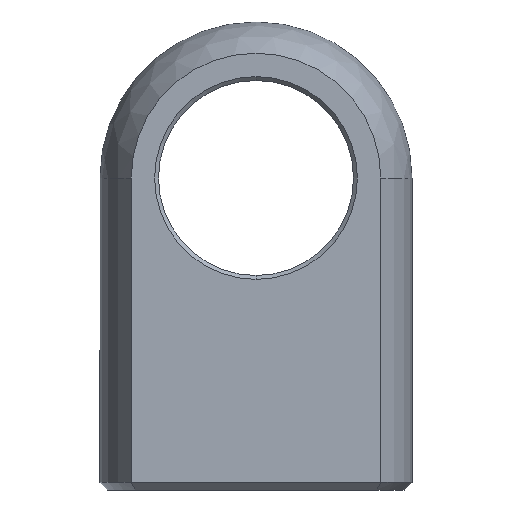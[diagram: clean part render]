
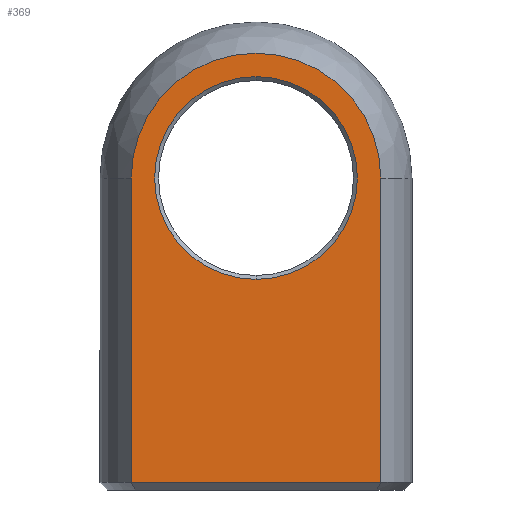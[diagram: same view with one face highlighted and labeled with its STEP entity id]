
A CAD part, front view. The second image highlights one B-rep face of the part: STEP entity #369.
In plain terms, the highlighted planar face has unit normal (0, -1, 0).
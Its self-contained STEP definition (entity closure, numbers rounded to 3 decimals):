
#2 = EDGE_CURVE ( 'NONE', #23, #131, #315, .T. ) ;
#8 = DIRECTION ( 'NONE',  ( 1., 0., 0. ) ) ;
#15 = VECTOR ( 'NONE', #211, 1000. ) ;
#23 = VERTEX_POINT ( 'NONE', #353 ) ;
#27 = EDGE_CURVE ( 'NONE', #259, #359, #427, .T. ) ;
#41 = EDGE_CURVE ( 'NONE', #584, #396, #489, .T. ) ;
#63 = DIRECTION ( 'NONE',  ( 0., -1., 0. ) ) ;
#102 = DIRECTION ( 'NONE',  ( 1., 0., 0. ) ) ;
#108 = EDGE_LOOP ( 'NONE', ( #232, #492 ) ) ;
#128 = CARTESIAN_POINT ( 'NONE',  ( -8., -6., 20. ) ) ;
#131 = VERTEX_POINT ( 'NONE', #128 ) ;
#146 = EDGE_CURVE ( 'NONE', #359, #259, #383, .T. ) ;
#151 = PLANE ( 'NONE',  #434 ) ;
#155 = CARTESIAN_POINT ( 'NONE',  ( -8., -6., 0. ) ) ;
#183 = CARTESIAN_POINT ( 'NONE',  ( 0., -6., 20. ) ) ;
#198 = CARTESIAN_POINT ( 'NONE',  ( 0., -6., 13.5 ) ) ;
#211 = DIRECTION ( 'NONE',  ( 0., 0., -1. ) ) ;
#224 = AXIS2_PLACEMENT_3D ( 'NONE', #577, #63, #581 ) ;
#226 = LINE ( 'NONE', #155, #15 ) ;
#232 = ORIENTED_EDGE ( 'NONE', *, *, #27, .T. ) ;
#233 = DIRECTION ( 'NONE',  ( 1., 0., 0. ) ) ;
#236 = VECTOR ( 'NONE', #8, 1000. ) ;
#259 = VERTEX_POINT ( 'NONE', #198 ) ;
#265 = CARTESIAN_POINT ( 'NONE',  ( 8., -6., 0.5 ) ) ;
#268 = LINE ( 'NONE', #726, #709 ) ;
#315 = CIRCLE ( 'NONE', #224, 8. ) ;
#321 = DIRECTION ( 'NONE',  ( 0., -1., 0. ) ) ;
#323 = CARTESIAN_POINT ( 'NONE',  ( 0., -6., 26.5 ) ) ;
#341 = EDGE_LOOP ( 'NONE', ( #502, #480, #462, #615 ) ) ;
#353 = CARTESIAN_POINT ( 'NONE',  ( 8., -6., 20. ) ) ;
#359 = VERTEX_POINT ( 'NONE', #323 ) ;
#369 = ADVANCED_FACE ( 'NONE', ( #595, #447 ), #151, .T. ) ;
#380 = EDGE_CURVE ( 'NONE', #396, #23, #268, .T. ) ;
#383 = CIRCLE ( 'NONE', #644, 6.5 ) ;
#387 = DIRECTION ( 'NONE',  ( 0., 0., 1. ) ) ;
#396 = VERTEX_POINT ( 'NONE', #265 ) ;
#427 = CIRCLE ( 'NONE', #465, 6.5 ) ;
#434 = AXIS2_PLACEMENT_3D ( 'NONE', #443, #321, #102 ) ;
#439 = CARTESIAN_POINT ( 'NONE',  ( -8., -6., 0.5 ) ) ;
#443 = CARTESIAN_POINT ( 'NONE',  ( 14.25, -6., 0. ) ) ;
#447 = FACE_OUTER_BOUND ( 'NONE', #341, .T. ) ;
#460 = CARTESIAN_POINT ( 'NONE',  ( 7.365, -6., 0.5 ) ) ;
#462 = ORIENTED_EDGE ( 'NONE', *, *, #380, .T. ) ;
#465 = AXIS2_PLACEMENT_3D ( 'NONE', #683, #469, #233 ) ;
#469 = DIRECTION ( 'NONE',  ( 0., 1., 0. ) ) ;
#480 = ORIENTED_EDGE ( 'NONE', *, *, #41, .T. ) ;
#489 = LINE ( 'NONE', #460, #236 ) ;
#492 = ORIENTED_EDGE ( 'NONE', *, *, #146, .T. ) ;
#502 = ORIENTED_EDGE ( 'NONE', *, *, #738, .T. ) ;
#577 = CARTESIAN_POINT ( 'NONE',  ( 0., -6., 20. ) ) ;
#581 = DIRECTION ( 'NONE',  ( 1., 0., 0. ) ) ;
#584 = VERTEX_POINT ( 'NONE', #439 ) ;
#587 = DIRECTION ( 'NONE',  ( 0., 1., 0. ) ) ;
#595 = FACE_BOUND ( 'NONE', #108, .T. ) ;
#615 = ORIENTED_EDGE ( 'NONE', *, *, #2, .T. ) ;
#637 = DIRECTION ( 'NONE',  ( 1., 0., 0. ) ) ;
#644 = AXIS2_PLACEMENT_3D ( 'NONE', #183, #587, #637 ) ;
#683 = CARTESIAN_POINT ( 'NONE',  ( 0., -6., 20. ) ) ;
#709 = VECTOR ( 'NONE', #387, 1000. ) ;
#726 = CARTESIAN_POINT ( 'NONE',  ( 8., -6., 0. ) ) ;
#738 = EDGE_CURVE ( 'NONE', #131, #584, #226, .T. ) ;
